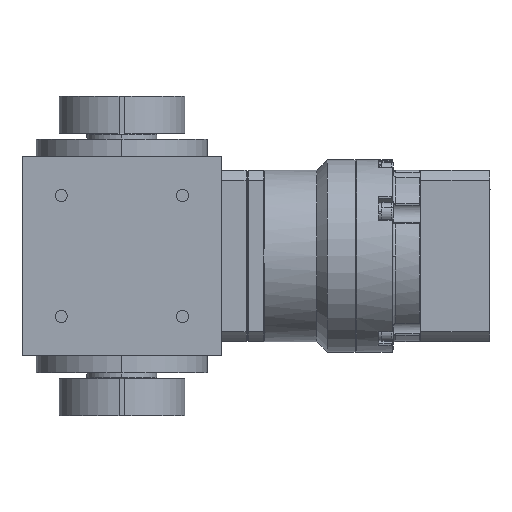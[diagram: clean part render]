
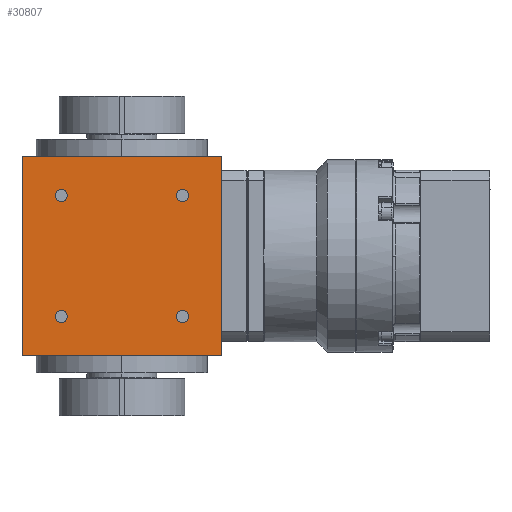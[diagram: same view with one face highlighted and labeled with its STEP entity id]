
A CAD part, left-side view. The second image highlights one B-rep face of the part: STEP entity #30807.
In plain terms, the highlighted planar face has unit normal (-1, 0, 0).
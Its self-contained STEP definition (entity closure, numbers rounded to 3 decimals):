
#564 = CARTESIAN_POINT ( 'NONE',  ( -35., 21.213, -21.213 ) ) ;
#659 = CARTESIAN_POINT ( 'NONE',  ( -35., 21.213, 21.213 ) ) ;
#741 = VERTEX_POINT ( 'NONE', #12455 ) ;
#751 = ORIENTED_EDGE ( 'NONE', *, *, #31801, .F. ) ;
#1013 = ORIENTED_EDGE ( 'NONE', *, *, #19650, .T. ) ;
#1065 = VERTEX_POINT ( 'NONE', #4350 ) ;
#1434 = CARTESIAN_POINT ( 'NONE',  ( -35., -23.313, 21.213 ) ) ;
#1566 = CARTESIAN_POINT ( 'NONE',  ( -35., -19.113, 21.213 ) ) ;
#1580 = EDGE_CURVE ( 'NONE', #16219, #12972, #27986, .T. ) ;
#2850 = AXIS2_PLACEMENT_3D ( 'NONE', #3584, #20859, #23125 ) ;
#2959 = AXIS2_PLACEMENT_3D ( 'NONE', #564, #21931, #10589 ) ;
#3219 = VECTOR ( 'NONE', #25512, 1000. ) ;
#3584 = CARTESIAN_POINT ( 'NONE',  ( -35., -21.213, -21.213 ) ) ;
#3617 = DIRECTION ( 'NONE',  ( 0., -1., 0. ) ) ;
#3930 = ORIENTED_EDGE ( 'NONE', *, *, #1580, .T. ) ;
#4350 = CARTESIAN_POINT ( 'NONE',  ( -35., -23.313, -21.213 ) ) ;
#4644 = DIRECTION ( 'NONE',  ( 1., 0., 0. ) ) ;
#4943 = DIRECTION ( 'NONE',  ( 0., -1., 0. ) ) ;
#4987 = VERTEX_POINT ( 'NONE', #1434 ) ;
#4990 = VERTEX_POINT ( 'NONE', #8855 ) ;
#6793 = EDGE_CURVE ( 'NONE', #26297, #21784, #17392, .T. ) ;
#7098 = VECTOR ( 'NONE', #4943, 1000. ) ;
#7375 = DIRECTION ( 'NONE',  ( -1., 0., 0. ) ) ;
#7383 = ORIENTED_EDGE ( 'NONE', *, *, #10638, .T. ) ;
#7632 = DIRECTION ( 'NONE',  ( 0., -1., 0. ) ) ;
#8159 = VERTEX_POINT ( 'NONE', #1566 ) ;
#8397 = CARTESIAN_POINT ( 'NONE',  ( -35., 35., -35. ) ) ;
#8469 = CARTESIAN_POINT ( 'NONE',  ( -35., 21.213, 21.213 ) ) ;
#8855 = CARTESIAN_POINT ( 'NONE',  ( -35., -35., -35. ) ) ;
#8860 = CARTESIAN_POINT ( 'NONE',  ( -35., 19.113, -21.213 ) ) ;
#9336 = CARTESIAN_POINT ( 'NONE',  ( -35., 35., -35. ) ) ;
#9458 = VERTEX_POINT ( 'NONE', #30422 ) ;
#9955 = VERTEX_POINT ( 'NONE', #8397 ) ;
#10091 = AXIS2_PLACEMENT_3D ( 'NONE', #14654, #7375, #17228 ) ;
#10589 = DIRECTION ( 'NONE',  ( 0., -1., 0. ) ) ;
#10638 = EDGE_CURVE ( 'NONE', #9955, #4990, #19634, .T. ) ;
#11952 = CIRCLE ( 'NONE', #29484, 2.1 ) ;
#11979 = AXIS2_PLACEMENT_3D ( 'NONE', #8469, #30145, #3617 ) ;
#12060 = FACE_BOUND ( 'NONE', #29839, .T. ) ;
#12105 = ORIENTED_EDGE ( 'NONE', *, *, #22354, .T. ) ;
#12425 = VERTEX_POINT ( 'NONE', #12666 ) ;
#12455 = CARTESIAN_POINT ( 'NONE',  ( -35., -35., 35. ) ) ;
#12458 = DIRECTION ( 'NONE',  ( 1., 0., 0. ) ) ;
#12631 = AXIS2_PLACEMENT_3D ( 'NONE', #21567, #24162, #23828 ) ;
#12666 = CARTESIAN_POINT ( 'NONE',  ( -35., 35., 35. ) ) ;
#12972 = VERTEX_POINT ( 'NONE', #22786 ) ;
#14508 = DIRECTION ( 'NONE',  ( 0., -1., 0. ) ) ;
#14654 = CARTESIAN_POINT ( 'NONE',  ( -35., 35., -35. ) ) ;
#14824 = FACE_BOUND ( 'NONE', #27050, .T. ) ;
#14966 = CARTESIAN_POINT ( 'NONE',  ( -35., -21.213, 21.213 ) ) ;
#15046 = DIRECTION ( 'NONE',  ( 0., -1., 0. ) ) ;
#15138 = ORIENTED_EDGE ( 'NONE', *, *, #6793, .T. ) ;
#15653 = CARTESIAN_POINT ( 'NONE',  ( -35., -35., -35. ) ) ;
#16219 = VERTEX_POINT ( 'NONE', #24851 ) ;
#16300 = CARTESIAN_POINT ( 'NONE',  ( -35., 0., 35. ) ) ;
#16976 = ORIENTED_EDGE ( 'NONE', *, *, #20251, .T. ) ;
#17228 = DIRECTION ( 'NONE',  ( 0., 0., 1. ) ) ;
#17392 = CIRCLE ( 'NONE', #2959, 2.1 ) ;
#17917 = VECTOR ( 'NONE', #31815, 1000. ) ;
#18232 = DIRECTION ( 'NONE',  ( 0., -1., 0. ) ) ;
#18498 = EDGE_LOOP ( 'NONE', ( #28544, #1013 ) ) ;
#18867 = LINE ( 'NONE', #15653, #3219 ) ;
#19176 = EDGE_LOOP ( 'NONE', ( #21150, #27706 ) ) ;
#19325 = CARTESIAN_POINT ( 'NONE',  ( -35., 0., -35. ) ) ;
#19634 = LINE ( 'NONE', #19325, #7098 ) ;
#19650 = EDGE_CURVE ( 'NONE', #8159, #4987, #11952, .T. ) ;
#19802 = FACE_BOUND ( 'NONE', #18498, .T. ) ;
#19972 = FACE_OUTER_BOUND ( 'NONE', #29660, .T. ) ;
#20251 = EDGE_CURVE ( 'NONE', #12972, #16219, #24352, .T. ) ;
#20332 = VECTOR ( 'NONE', #18232, 1000. ) ;
#20633 = EDGE_CURVE ( 'NONE', #4990, #741, #18867, .T. ) ;
#20859 = DIRECTION ( 'NONE',  ( 1., 0., 0. ) ) ;
#20974 = LINE ( 'NONE', #16300, #20332 ) ;
#21150 = ORIENTED_EDGE ( 'NONE', *, *, #22994, .T. ) ;
#21567 = CARTESIAN_POINT ( 'NONE',  ( -35., 21.213, -21.213 ) ) ;
#21774 = EDGE_CURVE ( 'NONE', #12425, #741, #20974, .T. ) ;
#21784 = VERTEX_POINT ( 'NONE', #8860 ) ;
#21901 = CARTESIAN_POINT ( 'NONE',  ( -35., 23.313, -21.213 ) ) ;
#21931 = DIRECTION ( 'NONE',  ( 1., 0., 0. ) ) ;
#22354 = EDGE_CURVE ( 'NONE', #21784, #26297, #23948, .T. ) ;
#22786 = CARTESIAN_POINT ( 'NONE',  ( -35., 23.313, 21.213 ) ) ;
#22868 = ORIENTED_EDGE ( 'NONE', *, *, #20633, .T. ) ;
#22994 = EDGE_CURVE ( 'NONE', #1065, #9458, #28655, .T. ) ;
#23125 = DIRECTION ( 'NONE',  ( 0., -1., 0. ) ) ;
#23215 = CARTESIAN_POINT ( 'NONE',  ( -35., -21.213, -21.213 ) ) ;
#23650 = EDGE_CURVE ( 'NONE', #4987, #8159, #27447, .T. ) ;
#23828 = DIRECTION ( 'NONE',  ( 0., -1., 0. ) ) ;
#23948 = CIRCLE ( 'NONE', #12631, 2.1 ) ;
#24162 = DIRECTION ( 'NONE',  ( 1., 0., 0. ) ) ;
#24352 = CIRCLE ( 'NONE', #11979, 2.1 ) ;
#24742 = DIRECTION ( 'NONE',  ( 1., 0., 0. ) ) ;
#24807 = DIRECTION ( 'NONE',  ( 0., -1., 0. ) ) ;
#24851 = CARTESIAN_POINT ( 'NONE',  ( -35., 19.113, 21.213 ) ) ;
#25054 = AXIS2_PLACEMENT_3D ( 'NONE', #23215, #24742, #15046 ) ;
#25512 = DIRECTION ( 'NONE',  ( 0., 0., 1. ) ) ;
#25543 = CIRCLE ( 'NONE', #25054, 2.1 ) ;
#26297 = VERTEX_POINT ( 'NONE', #21901 ) ;
#26914 = FACE_BOUND ( 'NONE', #19176, .T. ) ;
#27050 = EDGE_LOOP ( 'NONE', ( #12105, #15138 ) ) ;
#27447 = CIRCLE ( 'NONE', #30532, 2.1 ) ;
#27557 = ORIENTED_EDGE ( 'NONE', *, *, #21774, .F. ) ;
#27706 = ORIENTED_EDGE ( 'NONE', *, *, #30585, .T. ) ;
#27986 = CIRCLE ( 'NONE', #30572, 2.1 ) ;
#28544 = ORIENTED_EDGE ( 'NONE', *, *, #23650, .T. ) ;
#28655 = CIRCLE ( 'NONE', #2850, 2.1 ) ;
#28750 = CARTESIAN_POINT ( 'NONE',  ( -35., -21.213, 21.213 ) ) ;
#29484 = AXIS2_PLACEMENT_3D ( 'NONE', #28750, #4644, #14508 ) ;
#29543 = LINE ( 'NONE', #9336, #17917 ) ;
#29660 = EDGE_LOOP ( 'NONE', ( #751, #7383, #22868, #27557 ) ) ;
#29670 = DIRECTION ( 'NONE',  ( 1., 0., 0. ) ) ;
#29839 = EDGE_LOOP ( 'NONE', ( #3930, #16976 ) ) ;
#30145 = DIRECTION ( 'NONE',  ( 1., 0., 0. ) ) ;
#30422 = CARTESIAN_POINT ( 'NONE',  ( -35., -19.113, -21.213 ) ) ;
#30532 = AXIS2_PLACEMENT_3D ( 'NONE', #14966, #29670, #24807 ) ;
#30572 = AXIS2_PLACEMENT_3D ( 'NONE', #659, #12458, #7632 ) ;
#30585 = EDGE_CURVE ( 'NONE', #9458, #1065, #25543, .T. ) ;
#30807 = ADVANCED_FACE ( 'NONE', ( #19972, #14824, #26914, #19802, #12060 ), #31948, .T. ) ;
#31801 = EDGE_CURVE ( 'NONE', #9955, #12425, #29543, .T. ) ;
#31815 = DIRECTION ( 'NONE',  ( 0., 0., 1. ) ) ;
#31948 = PLANE ( 'NONE',  #10091 ) ;
